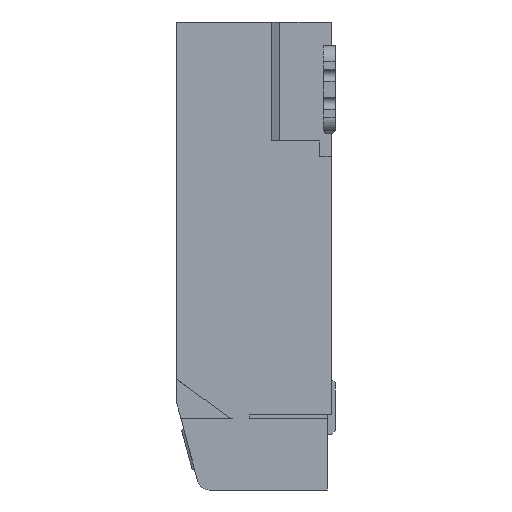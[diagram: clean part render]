
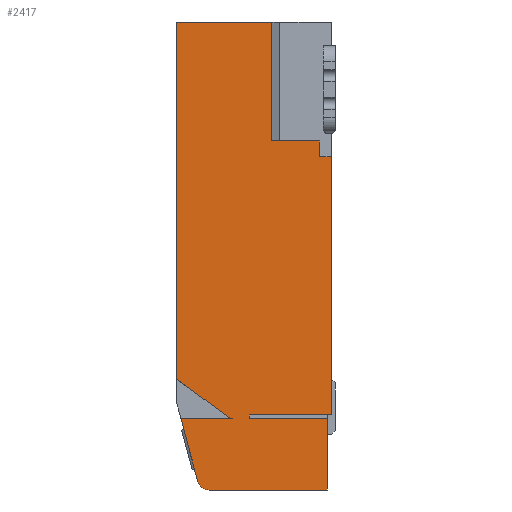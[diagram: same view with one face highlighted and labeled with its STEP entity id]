
A CAD part, left-side view. The second image highlights one B-rep face of the part: STEP entity #2417.
In plain terms, the highlighted planar face has unit normal (-1, 0, 0).
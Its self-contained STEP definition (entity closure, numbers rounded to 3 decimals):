
#5 = CARTESIAN_POINT ( 'NONE',  ( -3.75, 1.025, 5.2 ) ) ;
#17 = ORIENTED_EDGE ( 'NONE', *, *, #1443, .F. ) ;
#29 = CARTESIAN_POINT ( 'NONE',  ( -3.75, 0.1, 0.2 ) ) ;
#59 = VERTEX_POINT ( 'NONE', #4499 ) ;
#118 = VERTEX_POINT ( 'NONE', #4558 ) ;
#123 = VERTEX_POINT ( 'NONE', #4537 ) ;
#129 = ORIENTED_EDGE ( 'NONE', *, *, #5090, .F. ) ;
#240 = EDGE_CURVE ( 'NONE', #118, #5985, #5822, .T. ) ;
#270 = ORIENTED_EDGE ( 'NONE', *, *, #3302, .F. ) ;
#307 = CARTESIAN_POINT ( 'NONE',  ( -3.75, 1.085, 0.2 ) ) ;
#314 = CARTESIAN_POINT ( 'NONE',  ( -3.75, 0.05, 0.248 ) ) ;
#368 = CARTESIAN_POINT ( 'NONE',  ( -3.75, 1.025, 3.5 ) ) ;
#372 = DIRECTION ( 'NONE',  ( 0., 0., -1. ) ) ;
#377 = VERTEX_POINT ( 'NONE', #3627 ) ;
#398 = CARTESIAN_POINT ( 'NONE',  ( -3.75, 1.59, -0.55 ) ) ;
#409 = ORIENTED_EDGE ( 'NONE', *, *, #1988, .F. ) ;
#442 = VECTOR ( 'NONE', #1736, 1000. ) ;
#463 = DIRECTION ( 'NONE',  ( 0., 0., -1. ) ) ;
#519 = VECTOR ( 'NONE', #3001, 1000. ) ;
#530 = VECTOR ( 'NONE', #859, 1000. ) ;
#588 = LINE ( 'NONE', #5302, #3087 ) ;
#594 = DIRECTION ( 'NONE',  ( 0., 0.259, 0.966 ) ) ;
#703 = ORIENTED_EDGE ( 'NONE', *, *, #4093, .F. ) ;
#714 = EDGE_CURVE ( 'NONE', #1649, #1877, #3116, .T. ) ;
#752 = LINE ( 'NONE', #4196, #5607 ) ;
#771 = VERTEX_POINT ( 'NONE', #4721 ) ;
#781 = ORIENTED_EDGE ( 'NONE', *, *, #4741, .F. ) ;
#807 = LINE ( 'NONE', #4704, #5661 ) ;
#836 = ORIENTED_EDGE ( 'NONE', *, *, #2343, .F. ) ;
#859 = DIRECTION ( 'NONE',  ( 0., -1., 0. ) ) ;
#870 = DIRECTION ( 'NONE',  ( 0., 0., -1. ) ) ;
#906 = EDGE_CURVE ( 'NONE', #3887, #5669, #5681, .T. ) ;
#988 = EDGE_CURVE ( 'NONE', #3681, #377, #2608, .T. ) ;
#1007 = ORIENTED_EDGE ( 'NONE', *, *, #1079, .F. ) ;
#1030 = DIRECTION ( 'NONE',  ( 1., 0., 0. ) ) ;
#1079 = EDGE_CURVE ( 'NONE', #2784, #4653, #752, .T. ) ;
#1157 = ORIENTED_EDGE ( 'NONE', *, *, #4872, .F. ) ;
#1180 = ORIENTED_EDGE ( 'NONE', *, *, #906, .F. ) ;
#1261 = VECTOR ( 'NONE', #1327, 1000. ) ;
#1275 = CARTESIAN_POINT ( 'NONE',  ( -3.75, 1.29, 0.3 ) ) ;
#1327 = DIRECTION ( 'NONE',  ( 0., -1., 0. ) ) ;
#1443 = EDGE_CURVE ( 'NONE', #123, #3887, #4812, .T. ) ;
#1513 = VECTOR ( 'NONE', #372, 1000. ) ;
#1648 = LINE ( 'NONE', #5100, #530 ) ;
#1649 = VERTEX_POINT ( 'NONE', #4314 ) ;
#1736 = DIRECTION ( 'NONE',  ( 0., 1., 0. ) ) ;
#1739 = ORIENTED_EDGE ( 'NONE', *, *, #3754, .F. ) ;
#1743 = DIRECTION ( 'NONE',  ( 0., 0., 1. ) ) ;
#1754 = ORIENTED_EDGE ( 'NONE', *, *, #2850, .F. ) ;
#1805 = ORIENTED_EDGE ( 'NONE', *, *, #988, .F. ) ;
#1855 = ORIENTED_EDGE ( 'NONE', *, *, #240, .T. ) ;
#1869 = VECTOR ( 'NONE', #5597, 1000. ) ;
#1877 = VERTEX_POINT ( 'NONE', #5421 ) ;
#1903 = AXIS2_PLACEMENT_3D ( 'NONE', #398, #3684, #870 ) ;
#1988 = EDGE_CURVE ( 'NONE', #377, #59, #1648, .T. ) ;
#2311 = VECTOR ( 'NONE', #5037, 1000. ) ;
#2336 = EDGE_CURVE ( 'NONE', #771, #5985, #807, .T. ) ;
#2338 = VERTEX_POINT ( 'NONE', #29 ) ;
#2343 = EDGE_CURVE ( 'NONE', #4465, #3571, #4566, .T. ) ;
#2417 = ADVANCED_FACE ( 'NONE', ( #5229 ), #3363, .F. ) ;
#2525 = LINE ( 'NONE', #368, #1261 ) ;
#2608 = LINE ( 'NONE', #3189, #1513 ) ;
#2659 = DIRECTION ( 'NONE',  ( 0., -1., 0. ) ) ;
#2784 = VERTEX_POINT ( 'NONE', #5886 ) ;
#2848 = CARTESIAN_POINT ( 'NONE',  ( -3.75, 1.59, -0.7 ) ) ;
#2850 = EDGE_CURVE ( 'NONE', #3571, #2338, #2883, .T. ) ;
#2883 = LINE ( 'NONE', #5928, #5226 ) ;
#2950 = LINE ( 'NONE', #5579, #5570 ) ;
#2953 = CARTESIAN_POINT ( 'NONE',  ( -3.75, 0.2, 3.5 ) ) ;
#3001 = DIRECTION ( 'NONE',  ( 0., 0., -1. ) ) ;
#3071 = CARTESIAN_POINT ( 'NONE',  ( -3.75, 1.349, 0.22 ) ) ;
#3087 = VECTOR ( 'NONE', #594, 1000. ) ;
#3116 = LINE ( 'NONE', #4660, #1869 ) ;
#3147 = CARTESIAN_POINT ( 'NONE',  ( -3.75, 1.025, 0.2 ) ) ;
#3163 = VECTOR ( 'NONE', #3776, 1000. ) ;
#3167 = CARTESIAN_POINT ( 'NONE',  ( -3.75, 0.1, 0.2 ) ) ;
#3189 = CARTESIAN_POINT ( 'NONE',  ( -3.75, 0.8, 2.25 ) ) ;
#3249 = ORIENTED_EDGE ( 'NONE', *, *, #2336, .F. ) ;
#3274 = VERTEX_POINT ( 'NONE', #2953 ) ;
#3275 = DIRECTION ( 'NONE',  ( 0., 1., 0. ) ) ;
#3280 = DIRECTION ( 'NONE',  ( 0., 1., 0. ) ) ;
#3301 = CARTESIAN_POINT ( 'NONE',  ( -3.75, 1.085, 2.25 ) ) ;
#3302 = EDGE_CURVE ( 'NONE', #118, #123, #588, .T. ) ;
#3363 = PLANE ( 'NONE',  #4519 ) ;
#3524 = VECTOR ( 'NONE', #5531, 1000. ) ;
#3571 = VERTEX_POINT ( 'NONE', #307 ) ;
#3609 = ORIENTED_EDGE ( 'NONE', *, *, #714, .F. ) ;
#3627 = CARTESIAN_POINT ( 'NONE',  ( -3.75, 0.8, 3.7 ) ) ;
#3681 = VERTEX_POINT ( 'NONE', #5055 ) ;
#3684 = DIRECTION ( 'NONE',  ( -1., 0., 0. ) ) ;
#3754 = EDGE_CURVE ( 'NONE', #5669, #1649, #2950, .T. ) ;
#3776 = DIRECTION ( 'NONE',  ( 0., 0., -1. ) ) ;
#3788 = EDGE_CURVE ( 'NONE', #3681, #1877, #3889, .T. ) ;
#3844 = CARTESIAN_POINT ( 'NONE',  ( -3.75, 0.05, 5.2 ) ) ;
#3887 = VERTEX_POINT ( 'NONE', #4772 ) ;
#3889 = LINE ( 'NONE', #5, #4032 ) ;
#4032 = VECTOR ( 'NONE', #3275, 1000. ) ;
#4093 = EDGE_CURVE ( 'NONE', #2338, #771, #6005, .T. ) ;
#4111 = LINE ( 'NONE', #5802, #519 ) ;
#4196 = CARTESIAN_POINT ( 'NONE',  ( -3.75, 0.05, 2.25 ) ) ;
#4313 = DIRECTION ( 'NONE',  ( 0., 0., -1. ) ) ;
#4314 = CARTESIAN_POINT ( 'NONE',  ( -3.75, 2., 0.7 ) ) ;
#4465 = VERTEX_POINT ( 'NONE', #5360 ) ;
#4483 = AXIS2_PLACEMENT_3D ( 'NONE', #1275, #4556, #1743 ) ;
#4499 = CARTESIAN_POINT ( 'NONE',  ( -3.75, 0.2, 3.7 ) ) ;
#4519 = AXIS2_PLACEMENT_3D ( 'NONE', #3844, #1030, #4313 ) ;
#4537 = CARTESIAN_POINT ( 'NONE',  ( -3.75, 1.946, 0.2 ) ) ;
#4556 = DIRECTION ( 'NONE',  ( 1., 0., 0. ) ) ;
#4558 = CARTESIAN_POINT ( 'NONE',  ( -3.75, 1.735, -0.589 ) ) ;
#4566 = LINE ( 'NONE', #3301, #3163 ) ;
#4653 = VERTEX_POINT ( 'NONE', #314 ) ;
#4660 = CARTESIAN_POINT ( 'NONE',  ( -3.75, 2., 2.95 ) ) ;
#4704 = CARTESIAN_POINT ( 'NONE',  ( -3.75, 0.845, -0.7 ) ) ;
#4721 = CARTESIAN_POINT ( 'NONE',  ( -3.75, 0.1, -0.7 ) ) ;
#4741 = EDGE_CURVE ( 'NONE', #3274, #2784, #2525, .T. ) ;
#4772 = CARTESIAN_POINT ( 'NONE',  ( -3.75, 1.29, 0.2 ) ) ;
#4812 = LINE ( 'NONE', #3147, #2311 ) ;
#4872 = EDGE_CURVE ( 'NONE', #59, #3274, #4111, .T. ) ;
#5037 = DIRECTION ( 'NONE',  ( 0., -1., 0. ) ) ;
#5055 = CARTESIAN_POINT ( 'NONE',  ( -3.75, 0.8, 5.2 ) ) ;
#5090 = EDGE_CURVE ( 'NONE', #4653, #4465, #5301, .T. ) ;
#5100 = CARTESIAN_POINT ( 'NONE',  ( -3.75, 1.025, 3.7 ) ) ;
#5226 = VECTOR ( 'NONE', #2659, 1000. ) ;
#5229 = FACE_OUTER_BOUND ( 'NONE', #5418, .T. ) ;
#5301 = LINE ( 'NONE', #5482, #442 ) ;
#5302 = CARTESIAN_POINT ( 'NONE',  ( -3.75, 1.868, -0.094 ) ) ;
#5360 = CARTESIAN_POINT ( 'NONE',  ( -3.75, 1.085, 0.248 ) ) ;
#5418 = EDGE_LOOP ( 'NONE', ( #1007, #781, #1157, #409, #1805, #6069, #3609, #1739, #1180, #17, #270, #1855, #3249, #703, #1754, #836, #129 ) ) ;
#5421 = CARTESIAN_POINT ( 'NONE',  ( -3.75, 2., 5.2 ) ) ;
#5482 = CARTESIAN_POINT ( 'NONE',  ( -3.75, 1.025, 0.248 ) ) ;
#5531 = DIRECTION ( 'NONE',  ( 0., 0., -1. ) ) ;
#5570 = VECTOR ( 'NONE', #6047, 1000. ) ;
#5579 = CARTESIAN_POINT ( 'NONE',  ( -3.75, 1.349, 0.22 ) ) ;
#5597 = DIRECTION ( 'NONE',  ( 0., 0., 1. ) ) ;
#5607 = VECTOR ( 'NONE', #463, 1000. ) ;
#5661 = VECTOR ( 'NONE', #3280, 1000. ) ;
#5669 = VERTEX_POINT ( 'NONE', #3071 ) ;
#5681 = CIRCLE ( 'NONE', #4483, 0.1 ) ;
#5802 = CARTESIAN_POINT ( 'NONE',  ( -3.75, 0.2, 2.25 ) ) ;
#5822 = CIRCLE ( 'NONE', #1903, 0.15 ) ;
#5886 = CARTESIAN_POINT ( 'NONE',  ( -3.75, 0.05, 3.5 ) ) ;
#5928 = CARTESIAN_POINT ( 'NONE',  ( -3.75, 1.025, 0.2 ) ) ;
#5985 = VERTEX_POINT ( 'NONE', #2848 ) ;
#6005 = LINE ( 'NONE', #3167, #3524 ) ;
#6047 = DIRECTION ( 'NONE',  ( 0., 0.804, 0.594 ) ) ;
#6069 = ORIENTED_EDGE ( 'NONE', *, *, #3788, .T. ) ;
